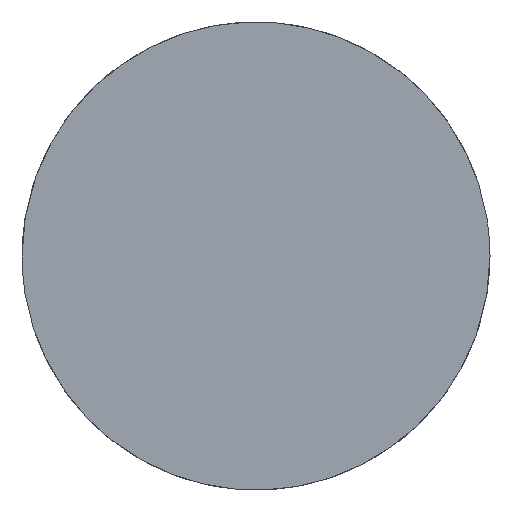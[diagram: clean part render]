
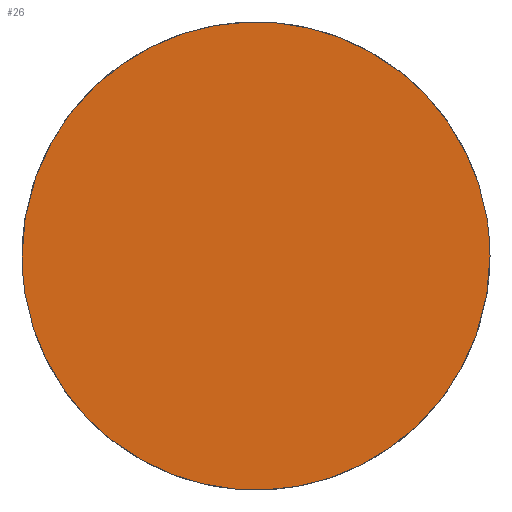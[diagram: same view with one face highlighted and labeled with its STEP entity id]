
A CAD part, top view. The second image highlights one B-rep face of the part: STEP entity #26.
In plain terms, the highlighted planar face has unit normal (0, 0, 1).
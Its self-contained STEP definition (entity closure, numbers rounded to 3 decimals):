
#26=ADVANCED_FACE($,(#44),#215,.T.);
#44=FACE_OUTER_BOUND($,#62,.T.);
#62=EDGE_LOOP($,(#106,#107));
#106=ORIENTED_EDGE($,*,*,#163,.F.);
#107=ORIENTED_EDGE($,*,*,#159,.F.);
#159=EDGE_CURVE($,#190,#192,#250,.T.);
#163=EDGE_CURVE($,#192,#190,#252,.T.);
#190=VERTEX_POINT($,#507);
#192=VERTEX_POINT($,#509);
#215=PLANE($,#351);
#250=(
BOUNDED_CURVE()
B_SPLINE_CURVE(2,(#461,#462,#463,#464,#465),.UNSPECIFIED.,.F.,.F.)
B_SPLINE_CURVE_WITH_KNOTS((3,2,3),(0.,1099.557,2199.115),
.UNSPECIFIED.)
CURVE()
GEOMETRIC_REPRESENTATION_ITEM()
RATIONAL_B_SPLINE_CURVE((1.,0.707,1.,0.707,1.))
REPRESENTATION_ITEM($)
);
#252=(
BOUNDED_CURVE()
B_SPLINE_CURVE(2,(#475,#476,#477,#478,#479),.UNSPECIFIED.,.F.,.F.)
B_SPLINE_CURVE_WITH_KNOTS((3,2,3),(2199.115,3298.672,4398.23),
.UNSPECIFIED.)
CURVE()
GEOMETRIC_REPRESENTATION_ITEM()
RATIONAL_B_SPLINE_CURVE((1.,0.707,1.,0.707,1.))
REPRESENTATION_ITEM($)
);
#351=AXIS2_PLACEMENT_3D($,#495,#366,$);
#366=DIRECTION($,(0.,0.,1.));
#461=CARTESIAN_POINT($,(5897.677,-1031.715,15.));
#462=CARTESIAN_POINT($,(5897.677,-1731.715,15.));
#463=CARTESIAN_POINT($,(5197.677,-1731.715,15.));
#464=CARTESIAN_POINT($,(4497.677,-1731.715,15.));
#465=CARTESIAN_POINT($,(4497.677,-1031.715,15.));
#475=CARTESIAN_POINT($,(4497.677,-1031.715,15.));
#476=CARTESIAN_POINT($,(4497.677,-331.715,15.));
#477=CARTESIAN_POINT($,(5197.677,-331.715,15.));
#478=CARTESIAN_POINT($,(5897.677,-331.715,15.));
#479=CARTESIAN_POINT($,(5897.677,-1031.715,15.));
#495=CARTESIAN_POINT($,(4497.677,-1731.715,15.));
#507=CARTESIAN_POINT($,(5897.677,-1031.715,15.));
#509=CARTESIAN_POINT($,(4497.677,-1031.715,15.));
